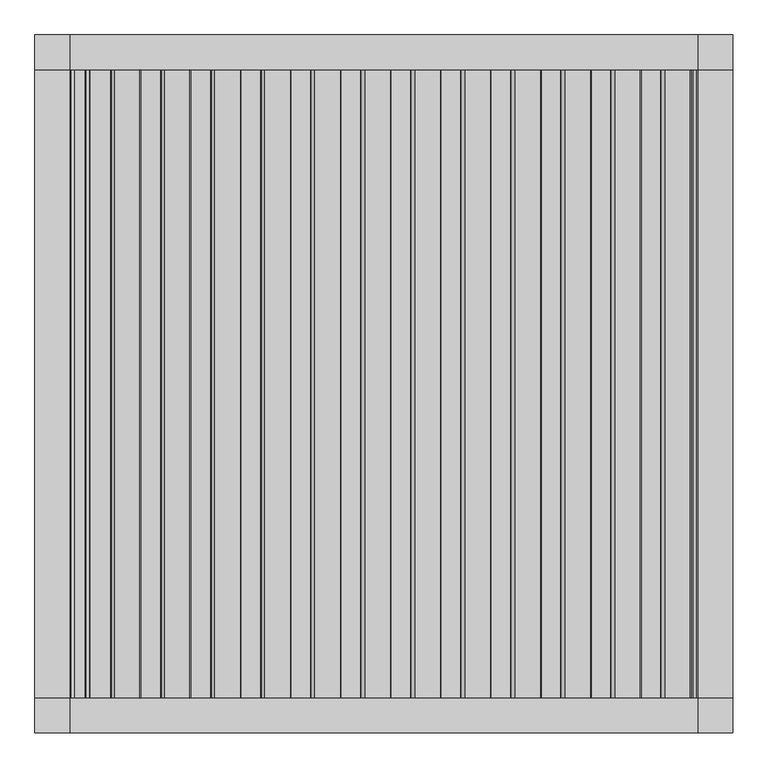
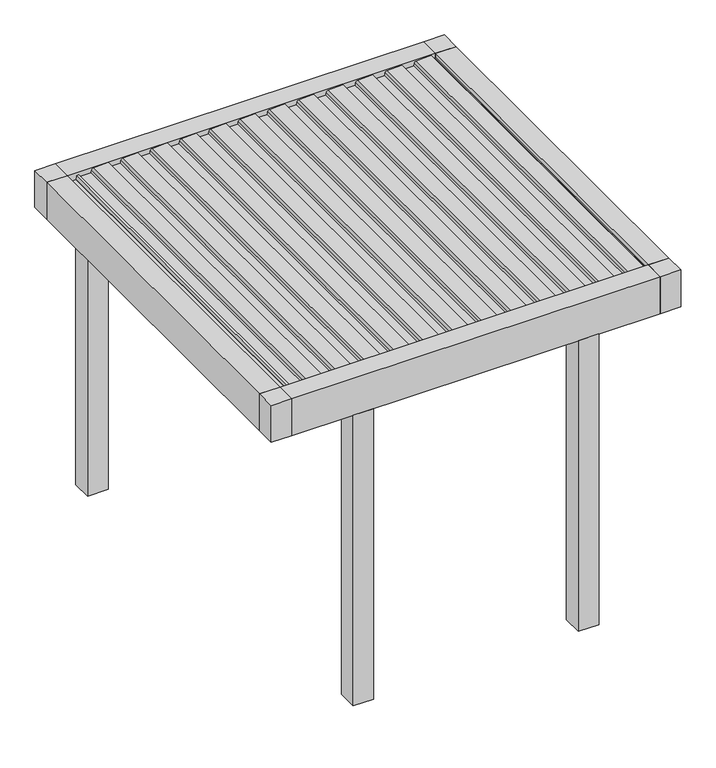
"""IFC4 building model written with IfcOpenShell, lengths in millimetres: proxy geometry, Renson_Amani_Patio_Cover : Renson_Amani_Patio_Cover."""

from ifc_helpers import new_model, si_unit, point, frame, frame_2d, origin, origin_with_axes, place, context, project, spatial, polyline, circle_curve, trimmed, segment, composite_curve, outline, extrude, source, transform, mapped, element, save


def generic_models_2e687909(model_context):
    return source(origin(), model_context, "Body", "SweptSolid", [
        extrude(outline(composite_curve([segment(polyline([(2483.35, 1073.7289238), (2511.01198, 1076.1490335), (2512.3970364, 1104.984284), (2531.8911096, 1101.5469529), (2526.6075693, 991.549838)]), True, "CONTINUOUS"), segment(trimmed(circle_curve(frame_2d((2511.6248435, 992.26951)), 15.0), [point((2526.6075693, 991.549838))], [point((2514.2295662, 977.4973937))], False, "CARTESIAN"), True, "CONTINUOUS"), segment(polyline([(2514.2295662, 977.4973937), (2495.0, 974.1067023), (2495.0, 886.3709263), (2512.0788237, 883.3594689), (2511.3450182, 868.0824984), (2483.35, 865.6332517), (2483.35, 1073.7289238)]), True, "CONTINUOUS")], self_intersect=False)), frame((0.0, -1350.0, 0.0), z_axis=(0.0, 1.0, 0.0), x_axis=(0.0, 0.0, 1.0)), (0.0, 0.0, 1.0), 2700.0),
        extrude(outline(composite_curve([segment(polyline([(2483.35, 858.7132078), (2511.01198, 861.1333174), (2512.3970364, 889.9685679), (2531.8911096, 886.5312368), (2526.6075693, 776.534122)]), True, "CONTINUOUS"), segment(trimmed(circle_curve(frame_2d((2511.6248435, 777.2537939)), 15.0), [point((2526.6075693, 776.534122))], [point((2514.2295662, 762.4816776))], False, "CARTESIAN"), True, "CONTINUOUS"), segment(polyline([(2514.2295662, 762.4816776), (2495.0, 759.0909863), (2495.0, 671.3552102), (2512.0788237, 668.3437528), (2511.3450182, 653.0667824), (2483.35, 650.6175356), (2483.35, 858.7132078)]), True, "CONTINUOUS")], self_intersect=False)), frame((0.0, -1350.0, 0.0), z_axis=(0.0, 1.0, 0.0), x_axis=(0.0, 0.0, 1.0)), (0.0, 0.0, 1.0), 2700.0),
        extrude(outline(composite_curve([segment(polyline([(2483.35, 643.6974917), (2511.01198, 646.1176014), (2512.3970364, 674.9528519), (2531.8911096, 671.5155208), (2526.6075693, 561.5184059)]), True, "CONTINUOUS"), segment(trimmed(circle_curve(frame_2d((2511.6248435, 562.2380779)), 15.0), [point((2526.6075693, 561.5184059))], [point((2514.2295662, 547.4659616))], False, "CARTESIAN"), True, "CONTINUOUS"), segment(polyline([(2514.2295662, 547.4659616), (2495.0, 544.0752702), (2495.0, 456.3394942), (2512.0788237, 453.3280368), (2511.3450182, 438.0510663), (2483.35, 435.6018196), (2483.35, 643.6974917)]), True, "CONTINUOUS")], self_intersect=False)), frame((0.0, -1350.0, 0.0), z_axis=(0.0, 1.0, 0.0), x_axis=(0.0, 0.0, 1.0)), (0.0, 0.0, 1.0), 2700.0),
        extrude(outline(composite_curve([segment(polyline([(2483.35, 428.6817757), (2511.01198, 431.1018854), (2512.3970364, 459.9371358), (2531.8911096, 456.4998047), (2526.6075693, 346.5026899)]), True, "CONTINUOUS"), segment(trimmed(circle_curve(frame_2d((2511.6248435, 347.2223618)), 15.0), [point((2526.6075693, 346.5026899))], [point((2514.2295662, 332.4502455))], False, "CARTESIAN"), True, "CONTINUOUS"), segment(polyline([(2514.2295662, 332.4502455), (2495.0, 329.0595542), (2495.0, 241.3237782), (2512.0788237, 238.3123207), (2511.3450182, 223.0353503), (2483.35, 220.5861035), (2483.35, 428.6817757)]), True, "CONTINUOUS")], self_intersect=False)), frame((0.0, -1350.0, 0.0), z_axis=(0.0, 1.0, 0.0), x_axis=(0.0, 0.0, 1.0)), (0.0, 0.0, 1.0), 2700.0),
        extrude(outline(composite_curve([segment(polyline([(2483.35, 213.6660597), (2511.01198, 216.0861693), (2512.3970364, 244.9214198), (2531.8911096, 241.4840887), (2526.6075693, 131.4869738)]), True, "CONTINUOUS"), segment(trimmed(circle_curve(frame_2d((2511.6248435, 132.2066458)), 15.0), [point((2526.6075693, 131.4869738))], [point((2514.2295662, 117.4345295))], False, "CARTESIAN"), True, "CONTINUOUS"), segment(polyline([(2514.2295662, 117.4345295), (2495.0, 114.0438381), (2495.0, 26.3080621), (2512.0788237, 23.2966047), (2511.3450182, 8.0196342), (2483.35, 5.5703875), (2483.35, 213.6660597)]), True, "CONTINUOUS")], self_intersect=False)), frame((0.0, -1350.0, 0.0), z_axis=(0.0, 1.0, 0.0), x_axis=(0.0, 0.0, 1.0)), (0.0, 0.0, 1.0), 2700.0),
        extrude(outline(composite_curve([segment(polyline([(2483.35, -1.3496564), (2511.01198, 1.0704533), (2512.3970364, 29.9057037), (2531.8911096, 26.4683726), (2526.6075693, -83.5287422)]), True, "CONTINUOUS"), segment(trimmed(circle_curve(frame_2d((2511.6248435, -82.8090703)), 15.0), [point((2526.6075693, -83.5287422))], [point((2514.2295662, -97.5811866))], False, "CARTESIAN"), True, "CONTINUOUS"), segment(polyline([(2514.2295662, -97.5811866), (2495.0, -100.9718779), (2495.0, -188.7076539), (2512.0788237, -191.7191114), (2511.3450182, -206.9960818), (2483.35, -209.4453286), (2483.35, -1.3496564)]), True, "CONTINUOUS")], self_intersect=False)), frame((0.0, -1350.0, 0.0), z_axis=(0.0, 1.0, 0.0), x_axis=(0.0, 0.0, 1.0)), (0.0, 0.0, 1.0), 2700.0),
        extrude(outline(composite_curve([segment(polyline([(2483.35, -216.3653724), (2511.01198, -213.9452628), (2512.3970364, -185.1100123), (2531.8911096, -188.5473434), (2526.6075693, -298.5444582)]), True, "CONTINUOUS"), segment(trimmed(circle_curve(frame_2d((2511.6248435, -297.8247863)), 15.0), [point((2526.6075693, -298.5444582))], [point((2514.2295662, -312.5969026))], False, "CARTESIAN"), True, "CONTINUOUS"), segment(polyline([(2514.2295662, -312.5969026), (2495.0, -315.987594), (2495.0, -403.72337), (2512.0788237, -406.7348274), (2511.3450182, -422.0117979), (2483.35, -424.4610446), (2483.35, -216.3653724)]), True, "CONTINUOUS")], self_intersect=False)), frame((0.0, -1350.0, 0.0), z_axis=(0.0, 1.0, 0.0), x_axis=(0.0, 0.0, 1.0)), (0.0, 0.0, 1.0), 2700.0),
        extrude(outline(composite_curve([segment(polyline([(2483.35, -431.3810885), (2511.01198, -428.9609788), (2512.3970364, -400.1257284), (2531.8911096, -403.5630594), (2526.6075693, -513.5601743)]), True, "CONTINUOUS"), segment(trimmed(circle_curve(frame_2d((2511.6248435, -512.8405024)), 15.0), [point((2526.6075693, -513.5601743))], [point((2514.2295662, -527.6126187))], False, "CARTESIAN"), True, "CONTINUOUS"), segment(polyline([(2514.2295662, -527.6126187), (2495.0, -531.00331), (2495.0, -618.739086), (2512.0788237, -621.7505434), (2511.3450182, -637.0275139), (2483.35, -639.4767606), (2483.35, -431.3810885)]), True, "CONTINUOUS")], self_intersect=False)), frame((0.0, -1350.0, 0.0), z_axis=(0.0, 1.0, 0.0), x_axis=(0.0, 0.0, 1.0)), (0.0, 0.0, 1.0), 2700.0),
        extrude(outline(composite_curve([segment(polyline([(2483.35, -646.3968045), (2511.01198, -643.9766949), (2512.3970364, -615.1414444), (2531.8911096, -618.5787755), (2526.6075693, -728.5758903)]), True, "CONTINUOUS"), segment(trimmed(circle_curve(frame_2d((2511.6248435, -727.8562184)), 15.0), [point((2526.6075693, -728.5758903))], [point((2514.2295662, -742.6283347))], False, "CARTESIAN"), True, "CONTINUOUS"), segment(polyline([(2514.2295662, -742.6283347), (2495.0, -746.019026), (2495.0, -833.7548021), (2512.0788237, -836.7662595), (2511.3450182, -852.04323), (2483.35, -854.4924767), (2483.35, -646.3968045)]), True, "CONTINUOUS")], self_intersect=False)), frame((0.0, -1350.0, 0.0), z_axis=(0.0, 1.0, 0.0), x_axis=(0.0, 0.0, 1.0)), (0.0, 0.0, 1.0), 2700.0),
        extrude(outline(composite_curve([segment(polyline([(2483.35, -861.4125206), (2511.01198, -858.9924109), (2512.3970364, -830.1571605), (2531.8911096, -833.5944915), (2526.6075693, -943.5916064)]), True, "CONTINUOUS"), segment(trimmed(circle_curve(frame_2d((2511.6248435, -942.8719345)), 15.0), [point((2526.6075693, -943.5916064))], [point((2514.2295662, -957.6440508))], False, "CARTESIAN"), True, "CONTINUOUS"), segment(polyline([(2514.2295662, -957.6440508), (2495.0, -961.0347421), (2495.0, -1048.7705181), (2512.0788237, -1051.7819755), (2511.3450182, -1067.058946), (2483.35, -1069.5081927), (2483.35, -861.4125206)]), True, "CONTINUOUS")], self_intersect=False)), frame((0.0, -1350.0, 0.0), z_axis=(0.0, 1.0, 0.0), x_axis=(0.0, 0.0, 1.0)), (0.0, 0.0, 1.0), 2700.0),
        extrude(outline(composite_curve([segment(polyline([(2483.35, 1288.7446399), (2511.01198, 1291.1647495), (2512.3970364, 1320.0), (2531.8911096, 1316.5626689), (2526.6075693, 1206.5655541)]), True, "CONTINUOUS"), segment(trimmed(circle_curve(frame_2d((2511.6248435, 1207.285226)), 15.0), [point((2526.6075693, 1206.5655541))], [point((2514.2295662, 1192.5131097))], False, "CARTESIAN"), True, "CONTINUOUS"), segment(polyline([(2514.2295662, 1192.5131097), (2495.0, 1189.1224184), (2495.0, 1101.3866423), (2512.0788237, 1098.3751849), (2511.3450182, 1083.0982144), (2483.35, 1080.6489677), (2483.35, 1288.7446399)]), True, "CONTINUOUS")], self_intersect=False)), frame((0.0, -1350.0, 0.0), z_axis=(0.0, 1.0, 0.0), x_axis=(0.0, 0.0, 1.0)), (0.0, 0.0, 1.0), 2700.0),
        extrude(outline(composite_curve([segment(polyline([(2483.35, -1076.4282366), (2511.01198, -1074.008127), (2512.3970364, -1045.1728765), (2531.8911096, -1048.6102076), (2526.6075693, -1158.6073224)]), True, "CONTINUOUS"), segment(trimmed(circle_curve(frame_2d((2511.6248435, -1157.8876505)), 15.0), [point((2526.6075693, -1158.6073224))], [point((2514.2295662, -1172.6597668))], False, "CARTESIAN"), True, "CONTINUOUS"), segment(polyline([(2514.2295662, -1172.6597668), (2495.0, -1176.0504581), (2495.0, -1263.7862342), (2512.0788237, -1266.7976916), (2511.3450182, -1282.0746621), (2483.35, -1284.5239088), (2483.35, -1076.4282366)]), True, "CONTINUOUS")], self_intersect=False)), frame((0.0, -1350.0, 0.0), z_axis=(0.0, 1.0, 0.0), x_axis=(0.0, 0.0, 1.0)), (0.0, 0.0, 1.0), 2700.0),
        extrude(outline(polyline([(900.0, -1350.0), (900.0, -1500.0), (750.0, -1500.0), (750.0, -1350.0), (900.0, -1350.0)])), origin_with_axes(), (0.0, 0.0, 1.0), 2250.0),
        extrude(outline(polyline([(1200.0, 1500.0), (1200.0, 1350.0), (1050.0, 1350.0), (1050.0, 1500.0), (1200.0, 1500.0)])), origin_with_axes(), (0.0, 0.0, 1.0), 2250.0),
        extrude(outline(polyline([(1500.0, 1500.0), (1500.0, 1350.0), (1350.0, 1350.0), (1350.0, 1500.0), (1500.0, 1500.0)])), frame((0.0, 0.0, 2250.0), z_axis=(0.0, 0.0, 1.0), x_axis=(1.0, 0.0, 0.0)), (0.0, 0.0, 1.0), 285.0),
        extrude(outline(polyline([(1500.0, -1350.0), (1500.0, -1500.0), (1350.0, -1500.0), (1350.0, -1350.0), (1500.0, -1350.0)])), frame((0.0, 0.0, 2250.0), z_axis=(0.0, 0.0, 1.0), x_axis=(1.0, 0.0, 0.0)), (0.0, 0.0, 1.0), 285.0),
        extrude(outline(polyline([(-1350.0, 1500.0), (-1350.0, 1350.0), (-1500.0, 1350.0), (-1500.0, 1500.0), (-1350.0, 1500.0)])), frame((0.0, 0.0, 2250.0), z_axis=(0.0, 0.0, 1.0), x_axis=(1.0, 0.0, 0.0)), (0.0, 0.0, 1.0), 285.0),
        extrude(outline(polyline([(-1350.0, -1500.0), (-1500.0, -1500.0), (-1500.0, -1350.0), (-1350.0, -1350.0), (-1350.0, -1500.0)])), frame((0.0, 0.0, 2250.0), z_axis=(0.0, 0.0, 1.0), x_axis=(1.0, 0.0, 0.0)), (0.0, 0.0, 1.0), 285.0),
        extrude(outline(polyline([(-750.0, -1350.0), (-750.0, -1500.0), (-900.0, -1500.0), (-900.0, -1350.0), (-750.0, -1350.0)])), origin_with_axes(), (0.0, 0.0, 1.0), 2250.0),
        extrude(outline(polyline([(-1050.0, 1500.0), (-1050.0, 1350.0), (-1200.0, 1350.0), (-1200.0, 1500.0), (-1050.0, 1500.0)])), origin_with_axes(), (0.0, 0.0, 1.0), 2250.0),
        extrude(outline(polyline([(2466.6559373, -1350.0), (2466.6559373, -1290.0), (2480.6555802, -1286.2487113), (2480.6555802, -1329.5940945), (2496.400763, -1345.0), (2504.2449277, -1345.0), (2504.6823598, -1350.0), (2466.6559373, -1350.0)])), frame((0.0, -1350.0, 0.0), z_axis=(0.0, 1.0, 0.0), x_axis=(0.0, 0.0, 1.0)), (0.0, 0.0, 1.0), 2700.0),
        extrude(outline(polyline([(-1350.0, -1350.0), (-1500.0, -1350.0), (-1500.0, 1350.0), (-1350.0, 1350.0), (-1350.0, -1350.0)])), frame((0.0, 0.0, 2250.0), z_axis=(0.0, 0.0, 1.0), x_axis=(1.0, 0.0, 0.0)), (0.0, 0.0, 1.0), 285.0),
        extrude(outline(polyline([(2535.0, 1500.0), (2535.0, 1350.0), (2504.6904658, 1350.0), (2504.2449277, 1345.0), (2496.400763, 1345.0), (2480.6555802, 1329.2544156), (2480.6555802, 1319.9090324), (2466.6559373, 1323.6603211), (2466.6559373, 1350.0), (2250.0, 1350.0), (2250.0, 1500.0), (2535.0, 1500.0)])), frame((0.0, -1350.0, 0.0), z_axis=(0.0, 1.0, 0.0), x_axis=(0.0, 0.0, 1.0)), (0.0, 0.0, 1.0), 2700.0),
        extrude(outline(polyline([(-1350.0, 2535.0), (-1350.0, 2322.0), (-1280.0000001, 2322.0), (-1280.0000001, 2250.0), (-1500.0, 2250.0), (-1500.0, 2535.0), (-1350.0, 2535.0)])), frame((-1350.0, 0.0, 0.0), z_axis=(1.0, 0.0, 0.0), x_axis=(0.0, 1.0, 0.0)), (0.0, 0.0, 1.0), 2700.0),
        extrude(outline(polyline([(1500.0, 2250.0), (1280.0000001, 2250.0), (1280.0000001, 2322.0), (1350.0, 2322.0), (1350.0, 2535.0), (1500.0, 2535.0), (1500.0, 2250.0)])), frame((-1350.0, 0.0, 0.0), z_axis=(1.0, 0.0, 0.0), x_axis=(0.0, 1.0, 0.0)), (0.0, 0.0, 1.0), 2700.0),
    ])


if __name__ == "__main__":
    model = new_model("IFC4")
    model_context = context("Model", 3, world=origin())
    ifc_project = project(units=[si_unit("LENGTHUNIT", "METRE", prefix="MILLI")], contexts=[model_context])
    site = spatial("IfcSite", under=ifc_project)
    building = spatial("IfcBuilding", under=site)
    placement = place(None, origin())
    generic_models_shape = generic_models_2e687909(model_context)
    element("IfcBuildingElementProxy", 1, Name="Renson_Amani_Patio_Cover : Renson_Amani_Patio_Cover", ObjectType="Renson_Amani_Patio_Cover : Renson_Amani_Patio_Cover", at=placement, inside=building, context=model_context, shape_type="MappedRepresentation", body=[
        mapped(generic_models_shape, transform((0.0, 0.0, 0.0), x_axis=(1.0, 0.0, 0.0), y_axis=(0.0, 1.0, 0.0), z_axis=(0.0, 0.0, 1.0))),
    ])
    save(model, "model.ifc")
